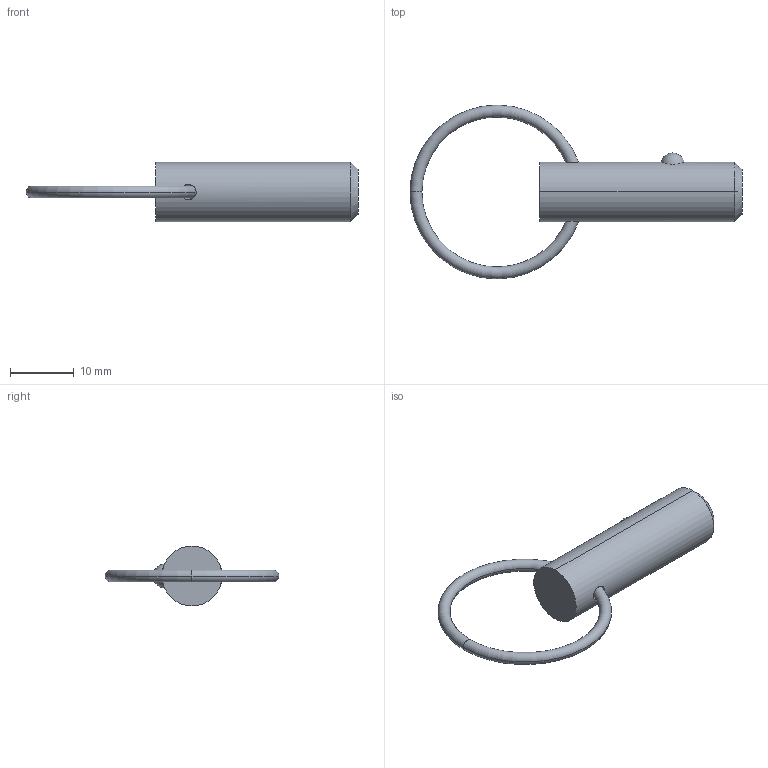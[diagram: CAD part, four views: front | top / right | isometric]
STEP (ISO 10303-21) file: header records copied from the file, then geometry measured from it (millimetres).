
FILE_DESCRIPTION (( 'STEP AP203' ), '1' );
FILE_NAME ('33012.W3705.step', '2024-11-01T14:09:15', ( '' ), ( '' ), 'SwSTEP 2.0', 'SolidWorks 2019', '' );
FILE_SCHEMA (( 'CONFIG_CONTROL_DESIGN' ));
Length unit declared in the file: millimetre
Products named in the file (3): Part1_33012.W3705; 33012.W3705; Part2_33012.W3705
Assembly tree (2 placements, depth 2):
  33012.W3705
    Part1_33012.W3705
    Part2_33012.W3705
Bounding box: 52.09 x 27.28 x 9.4 mm (x, y, z)
Volume: 2374.8 mm3; surface area: 1594.1 mm2
Topology: 2 solids, 2 shells, 16 faces, 31 edges, 18 vertices
Faces by surface type: torus 8, sphere 2, cone 2, cylinder 2, plane 2
Entity records: 849 total; most frequent: CARTESIAN_POINT 206, DIRECTION 88, ORIENTED_EDGE 62, AXIS2_PLACEMENT_3D 42, EDGE_CURVE 31, PERSON_AND_ORGANIZATION 26, CIRCLE 21, CALENDAR_DATE 19
